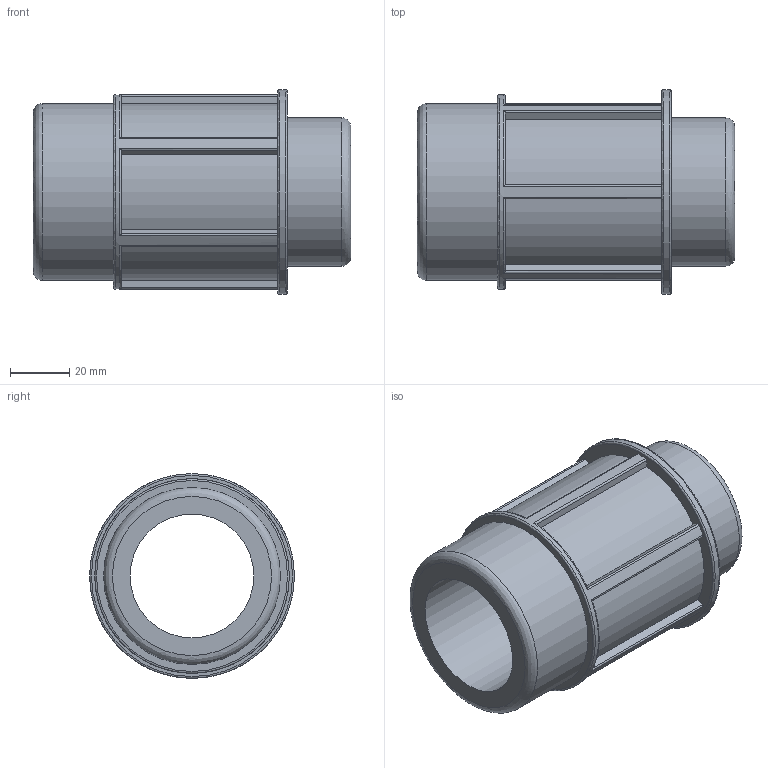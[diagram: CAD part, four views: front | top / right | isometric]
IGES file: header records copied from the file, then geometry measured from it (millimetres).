
Global section: file name: 078901050020.ipt; native system: Autodesk Inventor 2015; preprocessor: unknown; author: KIM; date: 20180409.130859; units: millimetre
Bounding box: 107 x 69 x 69 mm (x, y, z)
Volume: 142981.7 mm3; surface area: 40404.5 mm2
Topology: 1 solids, 1 shells, 57 faces, 163 edges, 111 vertices
Faces by surface type: plane 23, cylinder 22, revolution 12
Full cylindrical faces by diameter (mm): 50 x1, 59.614 x1, 65.575 x1, 69 x1
